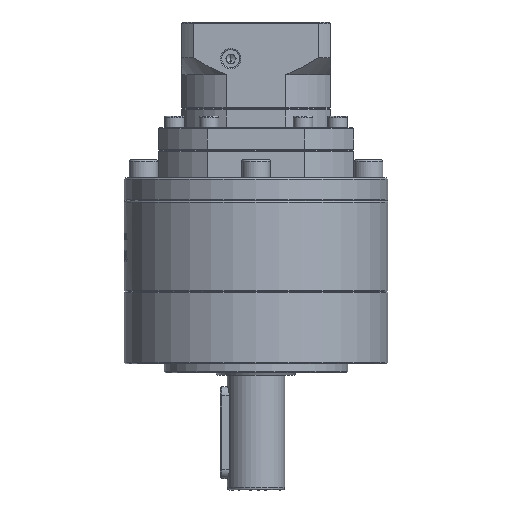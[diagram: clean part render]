
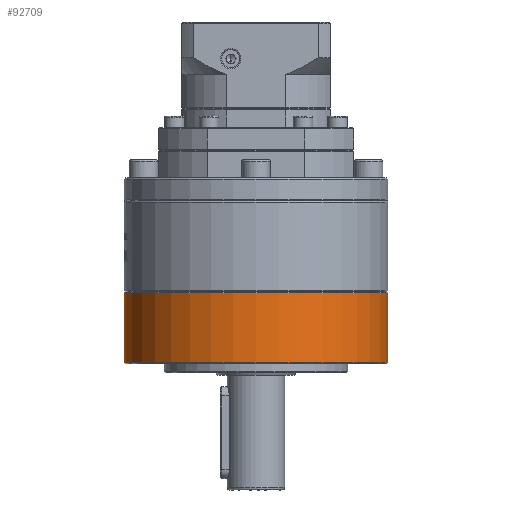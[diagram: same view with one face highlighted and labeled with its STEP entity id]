
A CAD part, left-side view. The second image highlights one B-rep face of the part: STEP entity #92709.
In plain terms, the highlighted cylindrical face has radius 57.5 mm (diameter 115 mm), a partial arc.
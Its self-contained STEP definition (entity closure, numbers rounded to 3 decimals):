
#2497 = VERTEX_POINT ( 'NONE', #64697 ) ;
#4181 = DIRECTION ( 'NONE',  ( 0., 1., 0. ) ) ;
#6167 = VECTOR ( 'NONE', #28307, 1000. ) ;
#16236 = LINE ( 'NONE', #57632, #39855 ) ;
#16575 = CIRCLE ( 'NONE', #35291, 57.5 ) ;
#16793 = CARTESIAN_POINT ( 'NONE',  ( -50.578, 49.115, -103.878 ) ) ;
#21040 = EDGE_CURVE ( 'NONE', #89451, #115493, #83282, .T. ) ;
#24792 = DIRECTION ( 'NONE',  ( 0., 0., 1. ) ) ;
#26889 = DIRECTION ( 'NONE',  ( 0., -1., 0. ) ) ;
#28307 = DIRECTION ( 'NONE',  ( 0., 0., 1. ) ) ;
#30296 = EDGE_LOOP ( 'NONE', ( #45040, #73137, #36205, #119560 ) ) ;
#34077 = DIRECTION ( 'NONE',  ( 0., 0., 1. ) ) ;
#35291 = AXIS2_PLACEMENT_3D ( 'NONE', #16793, #87149, #26889 ) ;
#36205 = ORIENTED_EDGE ( 'NONE', *, *, #74262, .F. ) ;
#39855 = VECTOR ( 'NONE', #77800, 1000. ) ;
#43006 = CARTESIAN_POINT ( 'NONE',  ( -50.578, -8.385, -103.878 ) ) ;
#45040 = ORIENTED_EDGE ( 'NONE', *, *, #98414, .T. ) ;
#57632 = CARTESIAN_POINT ( 'NONE',  ( -50.578, 106.615, -121.878 ) ) ;
#61653 = AXIS2_PLACEMENT_3D ( 'NONE', #85101, #24792, #95213 ) ;
#64697 = CARTESIAN_POINT ( 'NONE',  ( -50.578, 106.615, -134.378 ) ) ;
#73137 = ORIENTED_EDGE ( 'NONE', *, *, #21040, .T. ) ;
#73329 = VERTEX_POINT ( 'NONE', #90067 ) ;
#74262 = EDGE_CURVE ( 'NONE', #73329, #115493, #16575, .T. ) ;
#76604 = AXIS2_PLACEMENT_3D ( 'NONE', #84237, #34077, #4181 ) ;
#77800 = DIRECTION ( 'NONE',  ( 0., 0., 1. ) ) ;
#78284 = FACE_OUTER_BOUND ( 'NONE', #30296, .T. ) ;
#83282 = LINE ( 'NONE', #88520, #6167 ) ;
#84237 = CARTESIAN_POINT ( 'NONE',  ( -50.578, 49.115, -121.878 ) ) ;
#85101 = CARTESIAN_POINT ( 'NONE',  ( -50.578, 49.115, -134.378 ) ) ;
#87149 = DIRECTION ( 'NONE',  ( 0., 0., 1. ) ) ;
#88520 = CARTESIAN_POINT ( 'NONE',  ( -50.578, -8.385, -121.878 ) ) ;
#89451 = VERTEX_POINT ( 'NONE', #111235 ) ;
#90067 = CARTESIAN_POINT ( 'NONE',  ( -50.578, 106.615, -103.878 ) ) ;
#92709 = ADVANCED_FACE ( 'NONE', ( #78284 ), #119333, .T. ) ;
#95213 = DIRECTION ( 'NONE',  ( 0., 1., 0. ) ) ;
#98414 = EDGE_CURVE ( 'NONE', #2497, #89451, #110342, .T. ) ;
#110342 = CIRCLE ( 'NONE', #61653, 57.5 ) ;
#111235 = CARTESIAN_POINT ( 'NONE',  ( -50.578, -8.385, -134.378 ) ) ;
#115493 = VERTEX_POINT ( 'NONE', #43006 ) ;
#119333 = CYLINDRICAL_SURFACE ( 'NONE', #76604, 57.5 ) ;
#119560 = ORIENTED_EDGE ( 'NONE', *, *, #120197, .F. ) ;
#120197 = EDGE_CURVE ( 'NONE', #2497, #73329, #16236, .T. ) ;
